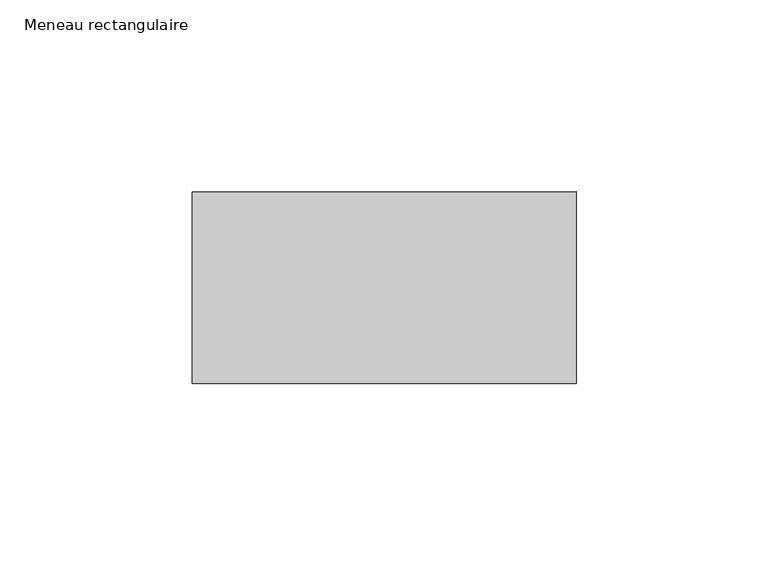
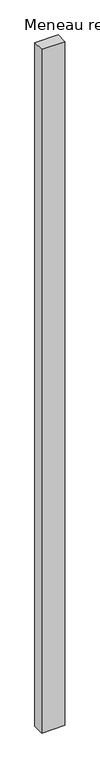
"""IFC4 building model written with IfcOpenShell, lengths in millimetres: member geometry, Meneau rectangulaire : 10x5cm aluminium laqué gris."""

from ifc_helpers import new_model, si_unit, frame, origin, place, context, project, spatial, polyline, outline, extrude, source, transform, mapped, element, save


def meneau_rectangulaire_d2acaf7e(model_context):
    return source(origin(), model_context, "Body", "SweptSolid", [
        extrude(outline(polyline([(0.0, 25.0), (0.0, -25.0), (-100.0, -25.0), (-100.0, 25.0), (0.0, 25.0)])), frame((0.0, 0.0, -3130.2096551), z_axis=(0.0, 0.0, 1.0), x_axis=(1.0, 0.0, 0.0)), (0.0, 0.0, 1.0), 3130.2096551),
    ])


if __name__ == "__main__":
    model = new_model("IFC4")
    model_context = context("Model", 3, world=origin())
    ifc_project = project(units=[si_unit("LENGTHUNIT", "METRE", prefix="MILLI")], contexts=[model_context])
    site = spatial("IfcSite", under=ifc_project)
    building = spatial("IfcBuilding", under=site)
    placement = place(None, origin())
    meneau_rectangulaire_shape = meneau_rectangulaire_d2acaf7e(model_context)
    element("IfcMember", 1, ObjectType="Meneau rectangulaire : 10x5cm aluminium laqué gris", at=placement, inside=building, context=model_context, shape_type="MappedRepresentation", body=[
        mapped(meneau_rectangulaire_shape, transform((0.0, 0.0, 0.0), x_axis=(1.0, 0.0, 0.0), y_axis=(0.0, 1.0, 0.0), z_axis=(0.0, 0.0, 1.0))),
    ])
    save(model, "model.ifc")
